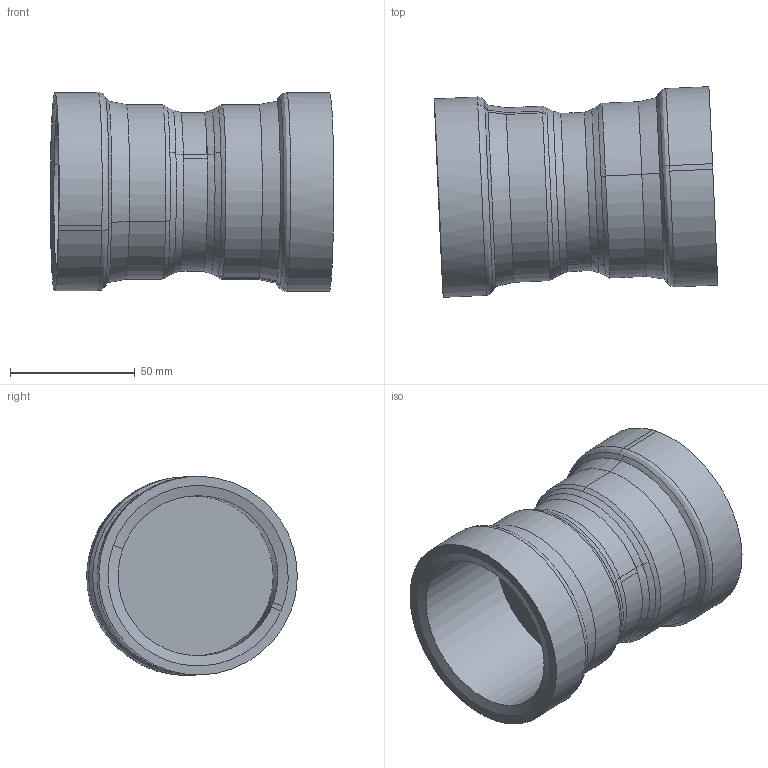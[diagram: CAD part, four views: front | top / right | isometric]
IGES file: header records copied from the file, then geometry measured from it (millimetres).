
Start section: 3D InterOp IGES (Version 25 0 1), Spatial Corp. Copyright (c) 1999-2007.
Global section: file name: pim0001214.igs; native system: Spatial Corp.; preprocessor: 3D InterOp ACIS/IGES; author: CAD-PIM; organization: TransMagic, Inc.; date: 20150316.172740; units: millimetre
Bounding box: 113.42 x 84.28 x 79.68 mm (x, y, z)
Volume: 181114.7 mm3; surface area: 53053.9 mm2
Topology: 1 solids, 1 shells, 59 faces, 138 edges, 79 vertices
Faces by surface type: bspline 59
